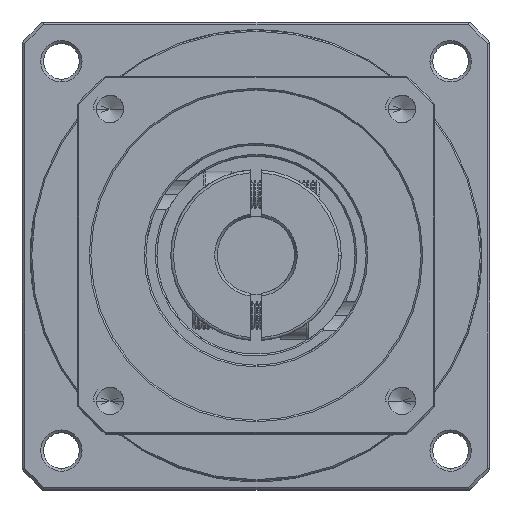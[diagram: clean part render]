
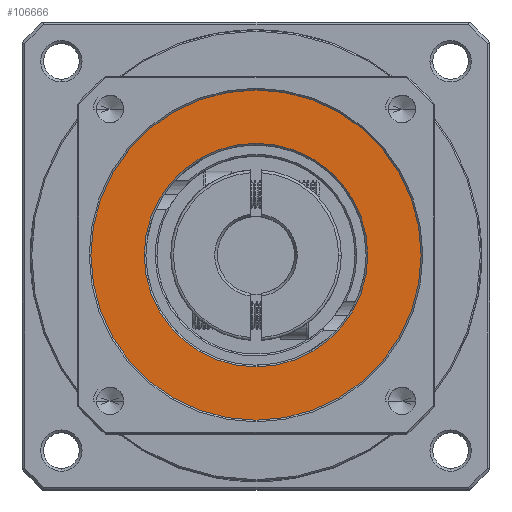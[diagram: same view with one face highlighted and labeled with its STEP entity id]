
A CAD part, top view. The second image highlights one B-rep face of the part: STEP entity #106666.
In plain terms, the highlighted planar face has unit normal (0, 0, 1).
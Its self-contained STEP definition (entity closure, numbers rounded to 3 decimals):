
#5250 = DIRECTION ( 'NONE',  ( 1., 0., 0. ) ) ;
#5729 = DIRECTION ( 'NONE',  ( 0., 0., -1. ) ) ;
#8707 = DIRECTION ( 'NONE',  ( 1., 0., 0. ) ) ;
#15234 = FACE_BOUND ( 'NONE', #70112, .T. ) ;
#25358 = ORIENTED_EDGE ( 'NONE', *, *, #60851, .T. ) ;
#28522 = CARTESIAN_POINT ( 'NONE',  ( -90.448, 22.673, 13.877 ) ) ;
#29839 = CARTESIAN_POINT ( 'NONE',  ( -70.148, 22.673, 13.877 ) ) ;
#35068 = VERTEX_POINT ( 'NONE', #28522 ) ;
#38732 = DIRECTION ( 'NONE',  ( 1., 0., 0. ) ) ;
#41640 = AXIS2_PLACEMENT_3D ( 'NONE', #29839, #91196, #38732 ) ;
#47088 = VERTEX_POINT ( 'NONE', #75827 ) ;
#47405 = CARTESIAN_POINT ( 'NONE',  ( -70.148, 22.673, 13.877 ) ) ;
#48699 = CIRCLE ( 'NONE', #112882, 20.3 ) ;
#52358 = PLANE ( 'NONE',  #93722 ) ;
#54395 = AXIS2_PLACEMENT_3D ( 'NONE', #58545, #5729, #67414 ) ;
#55658 = EDGE_CURVE ( 'NONE', #47088, #35068, #93968, .T. ) ;
#56212 = DIRECTION ( 'NONE',  ( 1., 0., 0. ) ) ;
#58047 = DIRECTION ( 'NONE',  ( 0., 0., 1. ) ) ;
#58545 = CARTESIAN_POINT ( 'NONE',  ( -70.148, 22.673, 13.877 ) ) ;
#60851 = EDGE_CURVE ( 'NONE', #86793, #78073, #99637, .T. ) ;
#61487 = DIRECTION ( 'NONE',  ( 0., 0., 1. ) ) ;
#63450 = CIRCLE ( 'NONE', #41640, 30. ) ;
#65582 = CARTESIAN_POINT ( 'NONE',  ( -100.148, 22.673, 13.877 ) ) ;
#67414 = DIRECTION ( 'NONE',  ( 1., 0., 0. ) ) ;
#70112 = EDGE_LOOP ( 'NONE', ( #71830, #101217 ) ) ;
#71830 = ORIENTED_EDGE ( 'NONE', *, *, #55658, .T. ) ;
#73417 = CARTESIAN_POINT ( 'NONE',  ( -40.148, 22.673, 13.877 ) ) ;
#73904 = ORIENTED_EDGE ( 'NONE', *, *, #77568, .T. ) ;
#75668 = AXIS2_PLACEMENT_3D ( 'NONE', #110137, #58047, #5250 ) ;
#75827 = CARTESIAN_POINT ( 'NONE',  ( -49.848, 22.673, 13.877 ) ) ;
#76759 = EDGE_CURVE ( 'NONE', #35068, #47088, #48699, .T. ) ;
#77568 = EDGE_CURVE ( 'NONE', #78073, #86793, #63450, .T. ) ;
#78057 = EDGE_LOOP ( 'NONE', ( #73904, #25358 ) ) ;
#78073 = VERTEX_POINT ( 'NONE', #73417 ) ;
#85400 = FACE_OUTER_BOUND ( 'NONE', #78057, .T. ) ;
#86793 = VERTEX_POINT ( 'NONE', #65582 ) ;
#91196 = DIRECTION ( 'NONE',  ( 0., 0., 1. ) ) ;
#93722 = AXIS2_PLACEMENT_3D ( 'NONE', #113428, #61487, #8707 ) ;
#93968 = CIRCLE ( 'NONE', #54395, 20.3 ) ;
#99637 = CIRCLE ( 'NONE', #75668, 30. ) ;
#101217 = ORIENTED_EDGE ( 'NONE', *, *, #76759, .T. ) ;
#106666 = ADVANCED_FACE ( 'NONE', ( #15234, #85400 ), #52358, .T. ) ;
#108374 = DIRECTION ( 'NONE',  ( 0., 0., -1. ) ) ;
#110137 = CARTESIAN_POINT ( 'NONE',  ( -70.148, 22.673, 13.877 ) ) ;
#112882 = AXIS2_PLACEMENT_3D ( 'NONE', #47405, #108374, #56212 ) ;
#113428 = CARTESIAN_POINT ( 'NONE',  ( -70.148, 22.673, 13.877 ) ) ;
